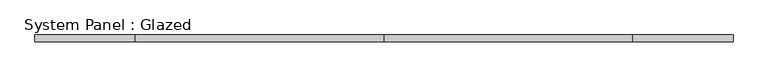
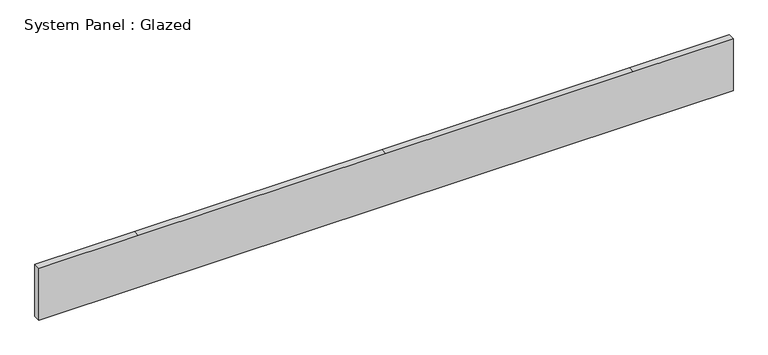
"""IFC4 building model written with IfcOpenShell, lengths in millimetres: plate geometry, System Panel : Glazed."""

from ifc_helpers import new_model, si_unit, frame, origin, place, context, project, spatial, polyline, outline, extrude, source, transform, mapped, element, save


def system_panel_glazed_239086b1(model_context):
    return source(origin(), model_context, "Body", "SweptSolid", [
        extrude(outline(polyline([(0.0, -1327.15), (0.0, -946.15), (0.0, 0.0), (0.0, 946.15), (0.0, 1327.15), (209.55, 1327.15), (209.55, 946.15), (209.55, 0.0), (209.55, -946.15), (209.55, -1327.15), (0.0, -1327.15)])), frame((0.0, -44.45, 0.0), z_axis=(0.0, 1.0, 0.0), x_axis=(0.0, 0.0, 1.0)), (0.0, 0.0, 1.0), 25.4),
    ])


if __name__ == "__main__":
    model = new_model("IFC4")
    model_context = context("Model", 3, world=origin())
    ifc_project = project(units=[si_unit("LENGTHUNIT", "METRE", prefix="MILLI")], contexts=[model_context])
    site = spatial("IfcSite", under=ifc_project)
    building = spatial("IfcBuilding", under=site)
    placement = place(None, origin())
    system_panel_glazed_shape = system_panel_glazed_239086b1(model_context)
    element("IfcPlate", 1, ObjectType="System Panel : Glazed", at=placement, inside=building, context=model_context, shape_type="MappedRepresentation", body=[
        mapped(system_panel_glazed_shape, transform((0.0, 0.0, 0.0), x_axis=(1.0, 0.0, 0.0), y_axis=(0.0, 1.0, 0.0), z_axis=(0.0, 0.0, 1.0))),
    ])
    save(model, "model.ifc")
